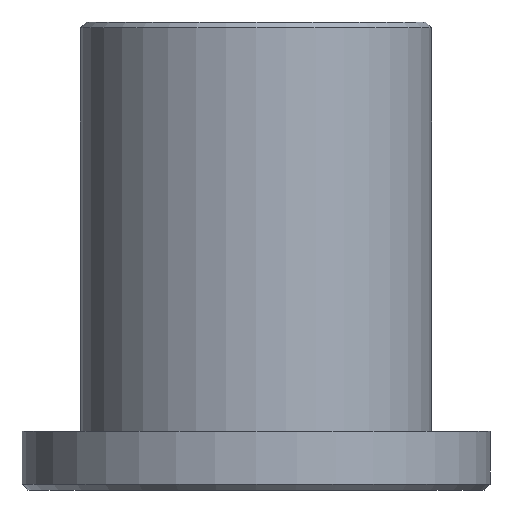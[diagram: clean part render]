
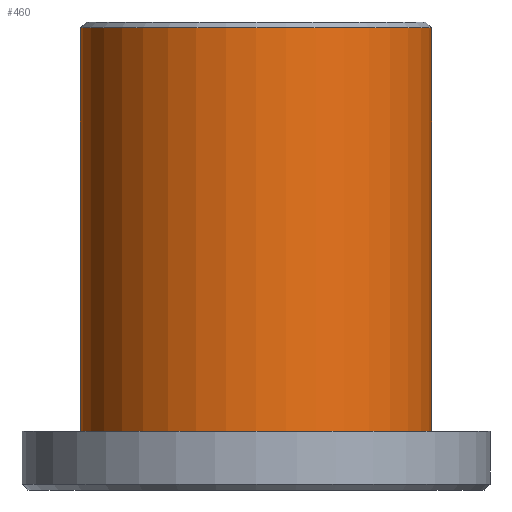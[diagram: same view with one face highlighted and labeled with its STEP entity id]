
A CAD part, front view. The second image highlights one B-rep face of the part: STEP entity #460.
In plain terms, the highlighted cylindrical face has radius 15 mm (diameter 30 mm), a full revolution.
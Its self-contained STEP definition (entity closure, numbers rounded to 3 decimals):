
#285 = CONICAL_SURFACE('',#286,15.,0.785);
#286 = AXIS2_PLACEMENT_3D('',#287,#288,#289);
#287 = CARTESIAN_POINT('',(0.,0.,39.5));
#288 = DIRECTION('',(-0.,-0.,-1.));
#289 = DIRECTION('',(1.,0.,0.));
#357 = VERTEX_POINT('',#358);
#358 = CARTESIAN_POINT('',(15.,0.,39.5));
#377 = EDGE_CURVE('',#357,#357,#378,.T.);
#378 = SURFACE_CURVE('',#379,(#384,#391),.PCURVE_S1.);
#379 = CIRCLE('',#380,15.);
#380 = AXIS2_PLACEMENT_3D('',#381,#382,#383);
#381 = CARTESIAN_POINT('',(0.,0.,39.5));
#382 = DIRECTION('',(0.,0.,1.));
#383 = DIRECTION('',(1.,0.,-0.));
#384 = PCURVE('',#285,#385);
#385 = DEFINITIONAL_REPRESENTATION('',(#386),#390);
#386 = LINE('',#387,#388);
#387 = CARTESIAN_POINT('',(-0.,-0.));
#388 = VECTOR('',#389,1.);
#389 = DIRECTION('',(-1.,-0.));
#390 = ( GEOMETRIC_REPRESENTATION_CONTEXT(2) 
PARAMETRIC_REPRESENTATION_CONTEXT() REPRESENTATION_CONTEXT('2D SPACE',''
  ) );
#391 = PCURVE('',#392,#397);
#392 = CYLINDRICAL_SURFACE('',#393,15.);
#393 = AXIS2_PLACEMENT_3D('',#394,#395,#396);
#394 = CARTESIAN_POINT('',(0.,0.,5.));
#395 = DIRECTION('',(-0.,-0.,-1.));
#396 = DIRECTION('',(1.,0.,0.));
#397 = DEFINITIONAL_REPRESENTATION('',(#398),#402);
#398 = LINE('',#399,#400);
#399 = CARTESIAN_POINT('',(-0.,-34.5));
#400 = VECTOR('',#401,1.);
#401 = DIRECTION('',(-1.,0.));
#402 = ( GEOMETRIC_REPRESENTATION_CONTEXT(2) 
PARAMETRIC_REPRESENTATION_CONTEXT() REPRESENTATION_CONTEXT('2D SPACE',''
  ) );
#447 = PLANE('',#448);
#448 = AXIS2_PLACEMENT_3D('',#449,#450,#451);
#449 = CARTESIAN_POINT('',(0.,0.,5.));
#450 = DIRECTION('',(0.,0.,1.));
#451 = DIRECTION('',(1.,0.,-0.));
#460 = ADVANCED_FACE('',(#461),#392,.T.);
#461 = FACE_BOUND('',#462,.F.);
#462 = EDGE_LOOP('',(#463,#486,#487,#488));
#463 = ORIENTED_EDGE('',*,*,#464,.T.);
#464 = EDGE_CURVE('',#465,#357,#467,.T.);
#465 = VERTEX_POINT('',#466);
#466 = CARTESIAN_POINT('',(15.,0.,5.));
#467 = SEAM_CURVE('',#468,(#472,#479),.PCURVE_S1.);
#468 = LINE('',#469,#470);
#469 = CARTESIAN_POINT('',(15.,0.,5.));
#470 = VECTOR('',#471,1.);
#471 = DIRECTION('',(0.,0.,1.));
#472 = PCURVE('',#392,#473);
#473 = DEFINITIONAL_REPRESENTATION('',(#474),#478);
#474 = LINE('',#475,#476);
#475 = CARTESIAN_POINT('',(-0.,0.));
#476 = VECTOR('',#477,1.);
#477 = DIRECTION('',(-0.,-1.));
#478 = ( GEOMETRIC_REPRESENTATION_CONTEXT(2) 
PARAMETRIC_REPRESENTATION_CONTEXT() REPRESENTATION_CONTEXT('2D SPACE',''
  ) );
#479 = PCURVE('',#392,#480);
#480 = DEFINITIONAL_REPRESENTATION('',(#481),#485);
#481 = LINE('',#482,#483);
#482 = CARTESIAN_POINT('',(-6.283,0.));
#483 = VECTOR('',#484,1.);
#484 = DIRECTION('',(-0.,-1.));
#485 = ( GEOMETRIC_REPRESENTATION_CONTEXT(2) 
PARAMETRIC_REPRESENTATION_CONTEXT() REPRESENTATION_CONTEXT('2D SPACE',''
  ) );
#486 = ORIENTED_EDGE('',*,*,#377,.T.);
#487 = ORIENTED_EDGE('',*,*,#464,.F.);
#488 = ORIENTED_EDGE('',*,*,#489,.F.);
#489 = EDGE_CURVE('',#465,#465,#490,.T.);
#490 = SURFACE_CURVE('',#491,(#496,#503),.PCURVE_S1.);
#491 = CIRCLE('',#492,15.);
#492 = AXIS2_PLACEMENT_3D('',#493,#494,#495);
#493 = CARTESIAN_POINT('',(0.,0.,5.));
#494 = DIRECTION('',(0.,0.,1.));
#495 = DIRECTION('',(1.,0.,0.));
#496 = PCURVE('',#392,#497);
#497 = DEFINITIONAL_REPRESENTATION('',(#498),#502);
#498 = LINE('',#499,#500);
#499 = CARTESIAN_POINT('',(-0.,0.));
#500 = VECTOR('',#501,1.);
#501 = DIRECTION('',(-1.,0.));
#502 = ( GEOMETRIC_REPRESENTATION_CONTEXT(2) 
PARAMETRIC_REPRESENTATION_CONTEXT() REPRESENTATION_CONTEXT('2D SPACE',''
  ) );
#503 = PCURVE('',#447,#504);
#504 = DEFINITIONAL_REPRESENTATION('',(#505),#509);
#505 = CIRCLE('',#506,15.);
#506 = AXIS2_PLACEMENT_2D('',#507,#508);
#507 = CARTESIAN_POINT('',(0.,0.));
#508 = DIRECTION('',(1.,0.));
#509 = ( GEOMETRIC_REPRESENTATION_CONTEXT(2) 
PARAMETRIC_REPRESENTATION_CONTEXT() REPRESENTATION_CONTEXT('2D SPACE',''
  ) );
